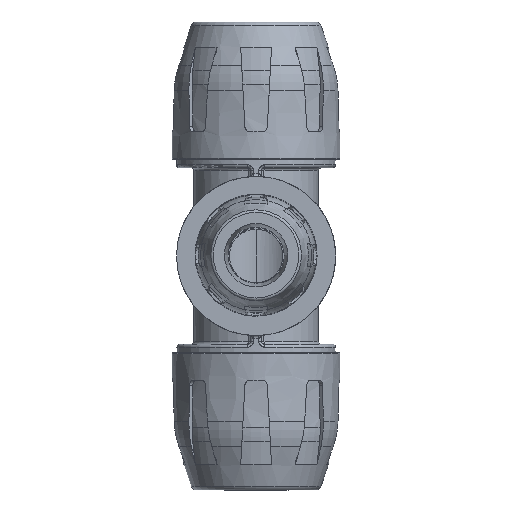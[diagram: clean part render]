
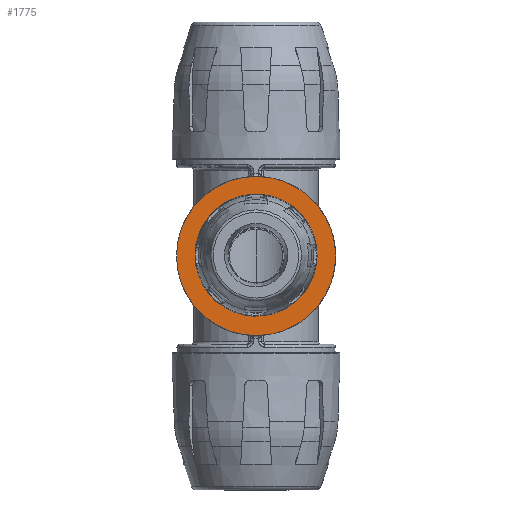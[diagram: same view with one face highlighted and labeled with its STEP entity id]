
A CAD part, front view. The second image highlights one B-rep face of the part: STEP entity #1775.
In plain terms, the highlighted planar face has unit normal (0, -1, 0).
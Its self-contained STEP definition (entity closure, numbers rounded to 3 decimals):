
#1775 = ADVANCED_FACE( '', ( #3900, #3901 ), #3902, .T. );
#3900 = FACE_BOUND( '', #9959, .T. );
#3901 = FACE_OUTER_BOUND( '', #9960, .T. );
#3902 = PLANE( '', #9961 );
#9959 = EDGE_LOOP( '', ( #17018 ) );
#9960 = EDGE_LOOP( '', ( #17019 ) );
#9961 = AXIS2_PLACEMENT_3D( '', #17020, #17021, #17022 );
#17018 = ORIENTED_EDGE( '', *, *, #21727, .T. );
#17019 = ORIENTED_EDGE( '', *, *, #21040, .T. );
#17020 = CARTESIAN_POINT( '', ( 0., -38.5, -63. ) );
#17021 = DIRECTION( '', ( 0., -1., 0. ) );
#17022 = DIRECTION( '', ( 1., 0., 0. ) );
#21040 = EDGE_CURVE( '', #24811, #24811, #24812, .T. );
#21727 = EDGE_CURVE( '', #25743, #25743, #25744, .F. );
#24811 = VERTEX_POINT( '', #32934 );
#24812 = CIRCLE( '', #32935, 29. );
#25743 = VERTEX_POINT( '', #35398 );
#25744 = CIRCLE( '', #35399, 20.7 );
#32934 = CARTESIAN_POINT( '', ( -29., -38.5, -63. ) );
#32935 = AXIS2_PLACEMENT_3D( '', #38510, #38511, #38512 );
#35398 = CARTESIAN_POINT( '', ( 0., -38.5, -83.7 ) );
#35399 = AXIS2_PLACEMENT_3D( '', #39354, #39355, #39356 );
#38510 = CARTESIAN_POINT( '', ( 0., -38.5, -63. ) );
#38511 = DIRECTION( '', ( 0., -1., 0. ) );
#38512 = DIRECTION( '', ( -1., 0., 0. ) );
#39354 = CARTESIAN_POINT( '', ( 0., -38.5, -63. ) );
#39355 = DIRECTION( '', ( 0., -1., 0. ) );
#39356 = DIRECTION( '', ( 0., 0., -1. ) );
